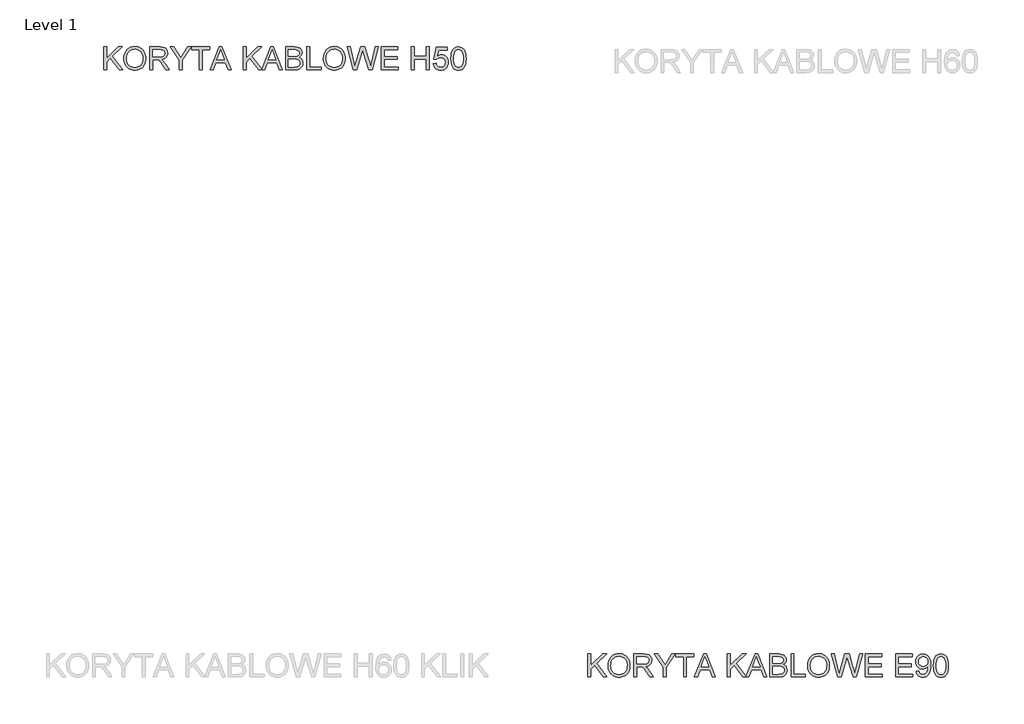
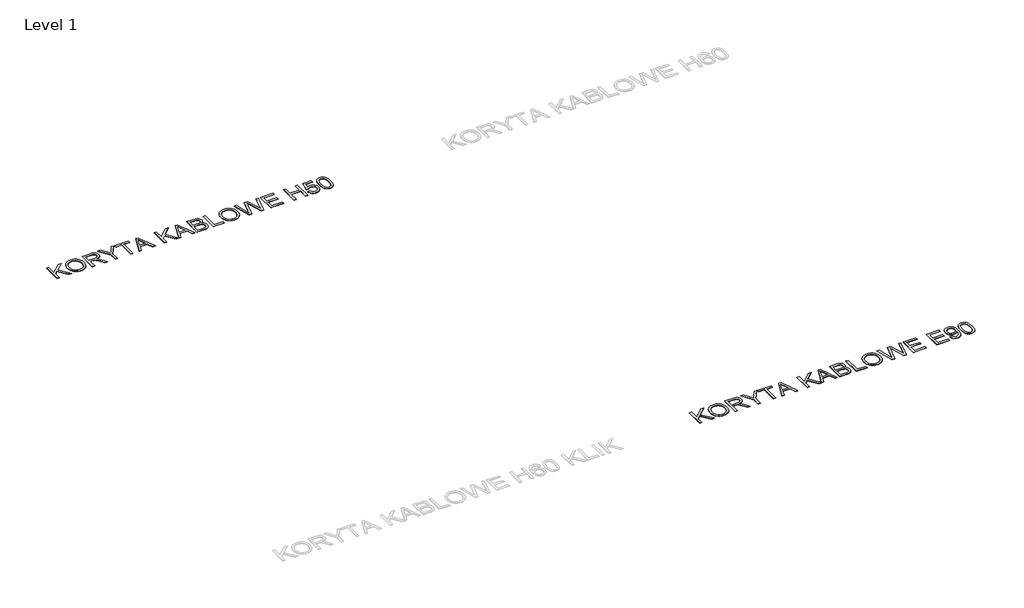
# One storey, part 7 of 9: 2 proxies.
"""IFC4 building model written with IfcOpenShell, lengths in millimetres."""

from ifc_helpers import new_model, si_unit, origin, origin_with_axes, place, context, project, spatial, polyline, outline, extrude, element, save

model = new_model("IFC4")

# Units and contexts
model_context = context("Model", 3, world=origin())
ifc_project = project(units=[si_unit("LENGTHUNIT", "METRE", prefix="MILLI")], contexts=[model_context])

# Site, building, storey
site = spatial("IfcSite", under=ifc_project)
building = spatial("IfcBuilding", under=site)
storey = spatial("IfcBuildingStorey", under=building, Name="Level 1", Elevation=0.0)

# Proxies
placement = place(None, origin())
element("IfcBuildingElementProxy", 1, Name="600mm Arial", ObjectType="600mm Arial", at=placement, inside=storey, context=model_context, shape_type="SweptSolid", body=[
    extrude(outline(polyline([(-22482.0898646, 21830.419586), (-22482.0898646, 22421.1888168), (-22408.2437108, 22421.1888168), (-22408.2437108, 22132.0061244), (-22105.3590954, 22421.1888168), (-22002.0898646, 22421.1888168), (-22256.3687108, 22178.3042014), (-21992.8590954, 21830.419586), (-22083.1475569, 21830.419586), (-22308.72448, 22128.4003552), (-22408.2437108, 22033.4965091), (-22408.2437108, 21830.419586), (-22482.0898646, 21830.419586)])), origin_with_axes(), (0.0, 0.0, 1.0), 10.0),
    extrude(outline(polyline([(-21965.1667877, 22118.0157398), (-21960.2449127, 22187.30961), (-21945.4792877, 22248.6527591), (-21920.8699127, 22302.0451869), (-21886.4167877, 22347.4868937), (-21844.1842156, 22383.7699466), (-21796.2364993, 22409.6864129), (-21742.5736387, 22425.2362927), (-21683.1956339, 22430.419586), (-21643.4510425, 22427.9856918), (-21605.7076531, 22420.6840091), (-21569.9654656, 22408.5145379), (-21536.22448, 22391.4772783), (-21505.4312108, 22370.0860523), (-21478.5321723, 22344.8546821), (-21455.5273646, 22315.7831677), (-21436.4167877, 22282.8715091), (-21421.3987589, 22246.8679033), (-21410.6715954, 22208.5205475), (-21404.2352973, 22167.8294418), (-21402.0898646, 22124.794586), (-21404.3479776, 22081.1918216), (-21411.1223166, 22039.950836), (-21422.4128815, 22001.0716293), (-21438.2196723, 21964.5542014), (-21458.1685906, 21931.3630956), (-21481.8855377, 21902.4628552), (-21509.3705137, 21877.8534802), (-21540.6235185, 21857.5349706), (-21574.4140834, 21841.6335283), (-21609.5117396, 21830.2753552), (-21645.9164872, 21823.4604514), (-21683.6283262, 21821.1888168), (-21724.0670281, 21823.6993336), (-21762.3062108, 21831.2308841), (-21798.3458743, 21843.7834682), (-21832.1860185, 21861.357086), (-21862.94323, 21883.2711485), (-21889.7340954, 21908.8450668), (-21912.5586146, 21938.0788408), (-21931.4167877, 21970.9724706), (-21946.1824127, 22006.2053432), (-21956.7292877, 22042.4568456), (-21963.0574127, 22079.7269778), (-21965.1667877, 22118.0157398)]), holes=[polyline([(-21891.3206339, 22117.294586), (-21887.6292276, 22068.3372543), (-21876.5550089, 22024.8787206), (-21858.0979776, 21986.918985), (-21832.2581339, 21954.4580475), (-21800.8473767, 21928.4604514), (-21765.677605, 21909.8907398), (-21726.748819, 21898.7489129), (-21684.0610185, 21895.0349706), (-21640.6430497, 21898.7849706), (-21601.2545281, 21910.0349706), (-21565.8954536, 21928.7849706), (-21534.5658262, 21955.0349706), (-21508.9152853, 21988.1810043), (-21490.5934704, 22027.6191052), (-21479.6003815, 22073.3492735), (-21475.9360185, 22125.3715091), (-21477.5045281, 22159.1665812), (-21482.2100569, 22190.7441052), (-21490.052605, 22220.1040812), (-21501.0321723, 22247.2465091), (-21515.0270642, 22271.8153192), (-21531.9155858, 22293.4544418), (-21551.6977372, 22312.1638769), (-21574.3735185, 22327.9436244), (-21599.2398045, 22340.4691653), (-21625.5934704, 22349.4159802), (-21653.4345161, 22354.7840692), (-21682.7629416, 22356.5734321), (-21723.9678694, 22353.1254153), (-21762.1980377, 22342.7813648), (-21797.4534464, 22325.5412807), (-21829.7340954, 22301.4051629), (-21856.678206, 22269.2101509), (-21875.9239993, 22227.7933841), (-21887.4714752, 22177.1548624), (-21891.3206339, 22117.294586)])]), origin_with_axes(), (0.0, 0.0, 1.0), 10.0),
    extrude(outline(polyline([(-21300.5514031, 21830.419586), (-21300.5514031, 22421.1888168), (-21045.9840954, 22421.1888168), (-20977.5646243, 22417.2044418), (-20927.78698, 22405.2513168), (-20908.5772444, 22395.7501148), (-20891.4047685, 22383.1840091), (-20876.2695521, 22367.5529994), (-20863.1715954, 22348.857086), (-20852.6021843, 22328.1013769), (-20845.052605, 22306.2909802), (-20839.0129416, 22259.5061244), (-20841.514444, 22229.1635764), (-20849.0189512, 22201.3090091), (-20861.5264632, 22175.9424225), (-20879.03698, 22153.0638168), (-20901.7758622, 22133.40336), (-20929.9684704, 22117.6912206), (-20963.6148045, 22105.9273985), (-21002.7148646, 22098.1118937), (-20978.3759223, 22082.2104514), (-20960.7437108, 22066.5253552), (-20900.8879416, 21990.5157398), (-20802.3783262, 21830.419586), (-20888.1956339, 21830.419586), (-20965.0706339, 21952.8715091), (-21020.59948, 22033.9292014), (-21041.2425089, 22057.5650187), (-21059.6139031, 22072.2224706), (-21094.7340954, 22086.2849706), (-21137.5706339, 22088.8811244), (-21226.7052493, 22088.8811244), (-21226.7052493, 21830.419586), (-21300.5514031, 21830.419586)]), holes=[polyline([(-21226.7052493, 22162.7272783), (-21061.4167877, 22162.7272783), (-21013.9468358, 22165.341461), (-20977.1139031, 22173.1840091), (-20949.3855377, 22186.7777591), (-20929.2292877, 22206.6455475), (-20916.9516435, 22230.6779994), (-20912.8590954, 22256.7657398), (-20914.810718, 22275.6509562), (-20920.6655858, 22292.7873744), (-20930.4236988, 22308.1749946), (-20944.0850569, 22321.8138168), (-20961.9651651, 22332.9826869), (-20984.3795281, 22340.9604514), (-21011.3281459, 22345.74711), (-21042.8110185, 22347.3426629), (-21226.7052493, 22347.3426629), (-21226.7052493, 22162.7272783)])]), origin_with_axes(), (0.0, 0.0, 1.0), 10.0),
    extrude(outline(polyline([(-20543.6283262, 21830.419586), (-20543.6283262, 22080.6599706), (-20774.3975569, 22421.1888168), (-20687.2821723, 22421.1888168), (-20564.1090954, 22239.3138168), (-20501.0802493, 22146.5734321), (-20437.9071723, 22245.9484321), (-20326.1283262, 22421.1888168), (-20239.0129416, 22421.1888168), (-20469.7821723, 22080.6599706), (-20469.7821723, 21830.419586), (-20543.6283262, 21830.419586)])), origin_with_axes(), (0.0, 0.0, 1.0), 10.0),
    extrude(outline(polyline([(-20026.7052493, 21830.419586), (-20026.7052493, 22347.3426629), (-20220.5514031, 22347.3426629), (-20220.5514031, 22421.1888168), (-19759.0129416, 22421.1888168), (-19759.0129416, 22347.3426629), (-19952.8590954, 22347.3426629), (-19952.8590954, 21830.419586), (-20026.7052493, 21830.419586)])), origin_with_axes(), (0.0, 0.0, 1.0), 10.0),
    extrude(outline(polyline([(-19744.7340954, 21830.419586), (-19508.9167877, 22421.1888168), (-19446.0321723, 22421.1888168), (-19210.2148646, 21830.419586), (-19288.2437108, 21830.419586), (-19355.8879416, 22015.0349706), (-19599.2052493, 22015.0349706), (-19666.7052493, 21830.419586), (-19744.7340954, 21830.419586)]), holes=[polyline([(-19572.0898646, 22088.8811244), (-19382.8590954, 22088.8811244), (-19436.0802493, 22234.1215091), (-19477.47448, 22347.3426629), (-19514.2533262, 22246.8138168), (-19572.0898646, 22088.8811244)])]), origin_with_axes(), (0.0, 0.0, 1.0), 10.0),
    extrude(outline(polyline([(-18900.5514031, 21830.419586), (-18900.5514031, 22421.1888168), (-18826.7052493, 22421.1888168), (-18826.7052493, 22132.0061244), (-18523.8206339, 22421.1888168), (-18420.5514031, 22421.1888168), (-18674.8302493, 22178.3042014), (-18411.3206339, 21830.419586), (-18501.6090954, 21830.419586), (-18727.1860185, 22128.4003552), (-18826.7052493, 22033.4965091), (-18826.7052493, 21830.419586), (-18900.5514031, 21830.419586)])), origin_with_axes(), (0.0, 0.0, 1.0), 10.0),
    extrude(outline(polyline([(-18424.7340954, 21830.419586), (-18188.9167877, 22421.1888168), (-18126.0321723, 22421.1888168), (-17890.2148646, 21830.419586), (-17968.2437108, 21830.419586), (-18035.8879416, 22015.0349706), (-18279.2052493, 22015.0349706), (-18346.7052493, 21830.419586), (-18424.7340954, 21830.419586)]), holes=[polyline([(-18252.0898646, 22088.8811244), (-18062.8590954, 22088.8811244), (-18116.0802493, 22234.1215091), (-18157.47448, 22347.3426629), (-18194.2533262, 22246.8138168), (-18252.0898646, 22088.8811244)])]), origin_with_axes(), (0.0, 0.0, 1.0), 10.0),
    extrude(outline(polyline([(-17811.3206339, 21830.419586), (-17811.3206339, 22421.1888168), (-17585.8879416, 22421.1888168), (-17523.8867396, 22416.8438648), (-17475.4792877, 22403.8090091), (-17438.3759223, 22381.7597302), (-17423.2046483, 22367.2329874), (-17410.28698, 22350.3715091), (-17392.6006819, 22313.4484321), (-17386.7052493, 22274.794586), (-17391.6631819, 22239.2236725), (-17406.53698, 22205.7801629), (-17431.4348166, 22176.5193456), (-17466.4648646, 22153.4965091), (-17444.1767036, 22143.9953071), (-17424.6199127, 22131.6455475), (-17407.794492, 22116.4472302), (-17393.7004416, 22098.4003552), (-17382.5631218, 22078.0548023), (-17374.6078935, 22055.9604514), (-17369.8347565, 22032.1173023), (-17368.2437108, 22006.5253552), (-17372.5886627, 21965.3294418), (-17385.6235185, 21927.1263168), (-17405.0766435, 21894.638336), (-17428.6764031, 21870.5878552), (-17457.5766435, 21853.1719898), (-17492.9312108, 21840.5878552), (-17535.8939512, 21832.9616533), (-17587.6187108, 21830.419586), (-17811.3206339, 21830.419586)]), holes=[polyline([(-17737.47448, 22181.1888168), (-17602.6187108, 22181.1888168), (-17555.4552493, 22182.7753552), (-17523.8687108, 22187.5349706), (-17496.302605, 22198.4784802), (-17476.4889031, 22214.8667014), (-17464.5357781, 22236.4472302), (-17460.5514031, 22262.9676629), (-17464.2653454, 22288.7128552), (-17475.4071723, 22311.1407398), (-17493.4720762, 22328.6467494), (-17517.9552493, 22339.6263168), (-17555.5273646, 22345.4135764), (-17612.8590954, 22347.3426629), (-17737.47448, 22347.3426629), (-17737.47448, 22181.1888168)]), polyline([(-17737.47448, 21904.2657398), (-17586.0321723, 21904.2657398), (-17531.22448, 21907.1503552), (-17505.7857781, 21913.5505956), (-17484.8542877, 21923.232086), (-17467.8350569, 21937.0962687), (-17454.1331339, 21956.044586), (-17445.1006819, 21979.2296821), (-17442.0898646, 22005.8042014), (-17445.6235185, 22036.669586), (-17456.22448, 22063.2080475), (-17474.740105, 22083.9592494), (-17502.0177493, 22097.4628552), (-17540.6535666, 22104.872711), (-17593.2437108, 22107.3426629), (-17737.47448, 22107.3426629), (-17737.47448, 21904.2657398)])]), origin_with_axes(), (0.0, 0.0, 1.0), 10.0),
    extrude(outline(polyline([(-17266.7052493, 21830.419586), (-17266.7052493, 22421.1888168), (-17192.8590954, 22421.1888168), (-17192.8590954, 21904.2657398), (-16897.47448, 21904.2657398), (-16897.47448, 21830.419586), (-17266.7052493, 21830.419586)])), origin_with_axes(), (0.0, 0.0, 1.0), 10.0),
    extrude(outline(polyline([(-16842.0898646, 22118.0157398), (-16837.1679896, 22187.30961), (-16822.4023646, 22248.6527591), (-16797.7929896, 22302.0451869), (-16763.3398646, 22347.4868937), (-16721.1072925, 22383.7699466), (-16673.1595762, 22409.6864129), (-16619.4967156, 22425.2362927), (-16560.1187108, 22430.419586), (-16520.3741194, 22427.9856918), (-16482.63073, 22420.6840091), (-16446.8885425, 22408.5145379), (-16413.1475569, 22391.4772783), (-16382.3542877, 22370.0860523), (-16355.4552493, 22344.8546821), (-16332.4504416, 22315.7831677), (-16313.3398646, 22282.8715091), (-16298.3218358, 22246.8679033), (-16287.5946723, 22208.5205475), (-16281.1583743, 22167.8294418), (-16279.0129416, 22124.794586), (-16281.2710545, 22081.1918216), (-16288.0453935, 22039.950836), (-16299.3359584, 22001.0716293), (-16315.1427493, 21964.5542014), (-16335.0916675, 21931.3630956), (-16358.8086146, 21902.4628552), (-16386.2935906, 21877.8534802), (-16417.5465954, 21857.5349706), (-16451.3371603, 21841.6335283), (-16486.4348166, 21830.2753552), (-16522.8395642, 21823.4604514), (-16560.5514031, 21821.1888168), (-16600.990105, 21823.6993336), (-16639.2292877, 21831.2308841), (-16675.2689512, 21843.7834682), (-16709.1090954, 21861.357086), (-16739.8663069, 21883.2711485), (-16766.6571723, 21908.8450668), (-16789.4816916, 21938.0788408), (-16808.3398646, 21970.9724706), (-16823.1054896, 22006.2053432), (-16833.6523646, 22042.4568456), (-16839.9804896, 22079.7269778), (-16842.0898646, 22118.0157398)]), holes=[polyline([(-16768.2437108, 22117.294586), (-16764.5523045, 22068.3372543), (-16753.4780858, 22024.8787206), (-16735.0210545, 21986.918985), (-16709.1812108, 21954.4580475), (-16677.7704536, 21928.4604514), (-16642.6006819, 21909.8907398), (-16603.6718959, 21898.7489129), (-16560.9840954, 21895.0349706), (-16517.5661267, 21898.7849706), (-16478.177605, 21910.0349706), (-16442.8185305, 21928.7849706), (-16411.4889031, 21955.0349706), (-16385.8383622, 21988.1810043), (-16367.5165473, 22027.6191052), (-16356.5234584, 22073.3492735), (-16352.8590954, 22125.3715091), (-16354.427605, 22159.1665812), (-16359.1331339, 22190.7441052), (-16366.9756819, 22220.1040812), (-16377.9552493, 22247.2465091), (-16391.9501411, 22271.8153192), (-16408.8386627, 22293.4544418), (-16428.6208142, 22312.1638769), (-16451.2965954, 22327.9436244), (-16476.1628815, 22340.4691653), (-16502.5165473, 22349.4159802), (-16530.357593, 22354.7840692), (-16559.6860185, 22356.5734321), (-16600.8909464, 22353.1254153), (-16639.1211146, 22342.7813648), (-16674.3765233, 22325.5412807), (-16706.6571723, 22301.4051629), (-16733.6012829, 22269.2101509), (-16752.8470762, 22227.7933841), (-16764.3945521, 22177.1548624), (-16768.2437108, 22117.294586)])]), origin_with_axes(), (0.0, 0.0, 1.0), 10.0),
    extrude(outline(polyline([(-16071.7533262, 21830.419586), (-16232.8590954, 22421.1888168), (-16156.7052493, 22421.1888168), (-16063.2437108, 22032.919586), (-16034.3975569, 21913.0638168), (-16003.5321723, 22019.0734321), (-15886.4167877, 22421.1888168), (-15776.6571723, 22421.1888168), (-15691.5610185, 22129.6984321), (-15655.1066916, 22021.5253552), (-15628.2437108, 21913.0638168), (-15600.2629416, 22029.4580475), (-15505.9360185, 22421.1888168), (-15429.7821723, 22421.1888168), (-15591.0321723, 21830.419586), (-15669.9264031, 21830.419586), (-15811.5610185, 22286.1888168), (-15831.3206339, 22349.794586), (-15853.5321723, 22273.2080475), (-15982.6187108, 21830.419586), (-16071.7533262, 21830.419586)])), origin_with_axes(), (0.0, 0.0, 1.0), 10.0),
    extrude(outline(polyline([(-15355.9360185, 21830.419586), (-15355.9360185, 22421.1888168), (-14931.3206339, 22421.1888168), (-14931.3206339, 22347.3426629), (-15282.0898646, 22347.3426629), (-15282.0898646, 22171.9580475), (-14949.7821723, 22171.9580475), (-14949.7821723, 22098.1118937), (-15282.0898646, 22098.1118937), (-15282.0898646, 21904.2657398), (-14922.0898646, 21904.2657398), (-14922.0898646, 21830.419586), (-15355.9360185, 21830.419586)])), origin_with_axes(), (0.0, 0.0, 1.0), 10.0),
    extrude(outline(polyline([(-14580.5514031, 21830.419586), (-14580.5514031, 22421.1888168), (-14506.7052493, 22421.1888168), (-14506.7052493, 22181.1888168), (-14192.8590954, 22181.1888168), (-14192.8590954, 22421.1888168), (-14119.0129416, 22421.1888168), (-14119.0129416, 21830.419586), (-14192.8590954, 21830.419586), (-14192.8590954, 22107.3426629), (-14506.7052493, 22107.3426629), (-14506.7052493, 21830.419586), (-14580.5514031, 21830.419586)])), origin_with_axes(), (0.0, 0.0, 1.0), 10.0),
    extrude(outline(polyline([(-14017.47448, 21987.3426629), (-13943.6283262, 21996.5734321), (-13938.1114993, 21972.833949), (-13930.0706339, 21952.2404994), (-13919.50573, 21934.7930836), (-13906.4167877, 21920.4917014), (-13890.8308502, 21909.3543817), (-13872.7749608, 21901.3991533), (-13852.2491194, 21896.6260163), (-13829.2533262, 21895.0349706), (-13801.1283262, 21897.2480115), (-13776.3206339, 21903.8871341), (-13754.8302493, 21914.9523384), (-13736.6571723, 21930.4436244), (-13722.2070521, 21949.5947663), (-13711.8855377, 21971.6395379), (-13705.6926291, 21996.5779394), (-13703.6283262, 22024.4099706), (-13705.5619199, 22050.7140571), (-13711.3627012, 22074.0974706), (-13721.0306699, 22094.560211), (-13734.5658262, 22112.1022783), (-13752.013242, 22126.1737927), (-13773.4179896, 22136.2248744), (-13798.780069, 22142.2555235), (-13828.09948, 22144.2657398), (-13863.9227973, 22141.0566052), (-13892.9312108, 22131.4292014), (-13916.0982781, 22116.6816052), (-13934.3975569, 22098.1118937), (-14008.2437108, 22107.3426629), (-13943.6283262, 22411.9580475), (-13657.47448, 22411.9580475), (-13657.47448, 22338.1118937), (-13883.9167877, 22338.1118937), (-13915.5033262, 22175.419586), (-13889.4426291, 22194.0974706), (-13862.7509223, 22207.4388168), (-13835.428206, 22215.4436244), (-13807.47448, 22218.1118937), (-13771.5114392, 22214.8036004), (-13738.4780858, 22204.8787206), (-13708.3744199, 22188.3372543), (-13681.2004416, 22165.1792014), (-13658.7049488, 22136.8198264), (-13642.6367396, 22104.6743937), (-13632.9958142, 22068.7429033), (-13629.7821723, 22029.0253552), (-13632.6758021, 21990.7681437), (-13641.3566916, 21955.1792014), (-13655.8248406, 21922.2585283), (-13676.0802493, 21892.0061244), (-13706.7653454, 21861.0235523), (-13742.5706339, 21838.8931437), (-13783.4961146, 21825.6148985), (-13829.5417877, 21821.1888168), (-13867.6502613, 21824.0328672), (-13902.0718358, 21832.5650187), (-13932.8065113, 21846.7852711), (-13959.8542877, 21866.6936244), (-13982.3587949, 21891.2984922), (-13999.4636627, 21919.6082879), (-14011.1688911, 21951.6230115), (-14017.47448, 21987.3426629)])), origin_with_axes(), (0.0, 0.0, 1.0), 10.0),
    extrude(outline(polyline([(-13565.1667877, 22121.044586), (-13559.740105, 22215.6058841), (-13552.9567517, 22255.7065451), (-13543.4600569, 22291.0205475), (-13531.2905858, 22321.8363528), (-13516.4889031, 22348.4424225), (-13499.0550089, 22370.8387567), (-13478.9889031, 22389.0253552), (-13456.2229776, 22403.0968696), (-13430.6896243, 22413.1479514), (-13402.388843, 22419.1786004), (-13371.3206339, 22421.1888168), (-13325.8158262, 22416.4292014), (-13285.0706339, 22402.1503552), (-13250.9961146, 22378.9111725), (-13225.5033262, 22347.2705475), (-13206.2485185, 22307.4989129), (-13190.8879416, 22259.8667014), (-13180.8278454, 22199.3799225), (-13177.47448, 22121.044586), (-13182.8470762, 22027.0241533), (-13189.5628214, 21987.0587086), (-13198.9648646, 21951.7897783), (-13211.0396843, 21920.9604514), (-13225.7737589, 21894.3138168), (-13243.1670882, 21871.8498744), (-13263.2196723, 21853.5686244), (-13286.0126411, 21839.4024586), (-13311.6271243, 21829.2837687), (-13340.0631218, 21823.2125547), (-13371.3206339, 21821.1888168), (-13411.9937108, 21824.7044418), (-13448.0514031, 21835.2513168), (-13479.4937108, 21852.8294418), (-13506.3206339, 21877.4388168), (-13532.0658262, 21921.9249946), (-13550.4552493, 21977.3546821), (-13561.4889031, 22043.7278793), (-13565.1667877, 22121.044586)]), holes=[polyline([(-13491.3206339, 22121.1888168), (-13489.1571723, 22056.9926028), (-13482.6667877, 22005.028961), (-13471.84948, 21965.2978913), (-13456.7052493, 21937.7993937), (-13438.3879416, 21919.0899586), (-13418.0514031, 21905.7260764), (-13395.6956339, 21897.707747), (-13371.3206339, 21895.0349706), (-13346.9456339, 21897.7167615), (-13324.5898646, 21905.7621341), (-13304.2533262, 21919.1710884), (-13285.9360185, 21937.9436244), (-13270.7917877, 21965.4871942), (-13259.97448, 22005.2092494), (-13253.4840954, 22057.1097903), (-13251.3206339, 22121.1888168), (-13253.41198, 22183.6858119), (-13259.6860185, 22234.7344898), (-13270.1427493, 22274.3348504), (-13284.7821723, 22302.4868937), (-13302.7929896, 22322.1112927), (-13323.3639031, 22336.1287206), (-13346.4949127, 22344.5391773), (-13372.1860185, 22347.3426629), (-13396.4348166, 22344.872711), (-13418.41198, 22337.4628552), (-13438.1175089, 22325.1130956), (-13455.5514031, 22307.8234321), (-13471.2004416, 22277.1743937), (-13482.3783262, 22235.8522783), (-13489.0850569, 22183.857086), (-13491.3206339, 22121.1888168)])]), origin_with_axes(), (0.0, 0.0, 1.0), 10.0),
])
element("IfcBuildingElementProxy", 2, Name="600mm Arial", ObjectType="600mm Arial", at=placement, inside=storey, context=model_context, shape_type="SweptSolid", body=[
    extrude(outline(polyline([(-10048.6894302, 6231.1737435), (-10048.6894302, 6821.9429743), (-9974.8432764, 6821.9429743), (-9974.8432764, 6532.760282), (-9671.958661, 6821.9429743), (-9568.6894302, 6821.9429743), (-9822.9682764, 6579.0583589), (-9559.458661, 6231.1737435), (-9649.7471226, 6231.1737435), (-9875.3240456, 6529.1545127), (-9974.8432764, 6434.2506666), (-9974.8432764, 6231.1737435), (-10048.6894302, 6231.1737435)])), origin_with_axes(), (0.0, 0.0, 1.0), 10.0),
    extrude(outline(polyline([(-9531.7663533, 6518.7698974), (-9526.8444783, 6588.0637675), (-9512.0788533, 6649.4069166), (-9487.4694783, 6702.7993445), (-9453.0163533, 6748.2410512), (-9410.7837812, 6784.5241041), (-9362.8360649, 6810.4405704), (-9309.1732043, 6825.9904502), (-9249.7951995, 6831.1737435), (-9210.0506081, 6828.7398493), (-9172.3072187, 6821.4381666), (-9136.5650312, 6809.2686954), (-9102.8240456, 6792.2314358), (-9072.0307764, 6770.8402099), (-9045.1317379, 6745.6088397), (-9022.1269302, 6716.5373252), (-9003.0163533, 6683.6256666), (-8987.9983245, 6647.6220608), (-8977.271161, 6609.274705), (-8970.8348629, 6568.5835993), (-8968.6894302, 6525.5487435), (-8970.9475432, 6481.9459791), (-8977.7218822, 6440.7049935), (-8989.0124471, 6401.8257868), (-9004.8192379, 6365.3083589), (-9024.7681562, 6332.1172531), (-9048.4851033, 6303.2170127), (-9075.9700793, 6278.6076377), (-9107.2230841, 6258.2891281), (-9141.013649, 6242.3876858), (-9176.1113052, 6231.0295127), (-9212.5160528, 6224.2146089), (-9250.2278918, 6221.9429743), (-9290.6665937, 6224.4534911), (-9328.9057764, 6231.9850416), (-9364.9454399, 6244.5376257), (-9398.7855841, 6262.1112435), (-9429.5427956, 6284.025306), (-9456.333661, 6309.5992243), (-9479.1581802, 6338.8329983), (-9498.0163533, 6371.7266281), (-9512.7819783, 6406.9595007), (-9523.3288533, 6443.2110031), (-9529.6569783, 6480.4811353), (-9531.7663533, 6518.7698974)]), holes=[polyline([(-9457.9201995, 6518.0487435), (-9454.2287932, 6469.0914118), (-9443.1545745, 6425.6328781), (-9424.6975432, 6387.6731425), (-9398.8576995, 6355.212205), (-9367.4469423, 6329.2146089), (-9332.2771706, 6310.6448974), (-9293.3483846, 6299.5030704), (-9250.6605841, 6295.7891281), (-9207.2426153, 6299.5391281), (-9167.8540937, 6310.7891281), (-9132.4950192, 6329.5391281), (-9101.1653918, 6355.7891281), (-9075.5148509, 6388.9351618), (-9057.193036, 6428.3732627), (-9046.1999471, 6474.103431), (-9042.5355841, 6526.1256666), (-9044.1040937, 6559.9207387), (-9048.8096226, 6591.4982627), (-9056.6521706, 6620.8582387), (-9067.6317379, 6648.0006666), (-9081.6266298, 6672.5694767), (-9098.5151514, 6694.2085993), (-9118.2973028, 6712.9180344), (-9140.9730841, 6728.697782), (-9165.8393701, 6741.2233228), (-9192.193036, 6750.1701377), (-9220.0340817, 6755.5382267), (-9249.3625072, 6757.3275897), (-9290.5674351, 6753.8795728), (-9328.7976033, 6743.5355224), (-9364.053012, 6726.2954382), (-9396.333661, 6702.1593204), (-9423.2777716, 6669.9643084), (-9442.5235649, 6628.5475416), (-9454.0710408, 6577.9090199), (-9457.9201995, 6518.0487435)])]), origin_with_axes(), (0.0, 0.0, 1.0), 10.0),
    extrude(outline(polyline([(-8867.1509687, 6231.1737435), (-8867.1509687, 6821.9429743), (-8612.583661, 6821.9429743), (-8544.1641899, 6817.9585993), (-8494.3865456, 6806.0054743), (-8475.1768101, 6796.5042724), (-8458.0043341, 6783.9381666), (-8442.8691177, 6768.307157), (-8429.771161, 6749.6112435), (-8419.20175, 6728.8555344), (-8411.6521706, 6707.0451377), (-8405.6125072, 6660.260282), (-8408.1140096, 6629.9177339), (-8415.6185168, 6602.0631666), (-8428.1260288, 6576.69658), (-8445.6365456, 6553.8179743), (-8468.3754278, 6534.1575175), (-8496.568036, 6518.4453781), (-8530.2143701, 6506.681556), (-8569.3144302, 6498.8660512), (-8544.9754879, 6482.9646089), (-8527.3432764, 6467.2795127), (-8467.4875072, 6391.2698974), (-8368.9778918, 6231.1737435), (-8454.7951995, 6231.1737435), (-8531.6701995, 6353.6256666), (-8587.1990456, 6434.6833589), (-8607.8420745, 6458.3191762), (-8626.2134687, 6472.9766281), (-8661.333661, 6487.0391281), (-8704.1701995, 6489.635282), (-8793.3048149, 6489.635282), (-8793.3048149, 6231.1737435), (-8867.1509687, 6231.1737435)]), holes=[polyline([(-8793.3048149, 6563.4814358), (-8628.0163533, 6563.4814358), (-8580.5464014, 6566.0956185), (-8543.7134687, 6573.9381666), (-8515.9851033, 6587.5319166), (-8495.8288533, 6607.399705), (-8483.5512091, 6631.432157), (-8479.458661, 6657.5198974), (-8481.4102836, 6676.4051137), (-8487.2651514, 6693.541532), (-8497.0232644, 6708.9291522), (-8510.6846226, 6722.5679743), (-8528.5647307, 6733.7368445), (-8550.9790937, 6741.7146089), (-8577.9277115, 6746.5012675), (-8609.4105841, 6748.0968204), (-8793.3048149, 6748.0968204), (-8793.3048149, 6563.4814358)])]), origin_with_axes(), (0.0, 0.0, 1.0), 10.0),
    extrude(outline(polyline([(-8110.2278918, 6231.1737435), (-8110.2278918, 6481.4141281), (-8340.9971226, 6821.9429743), (-8253.8817379, 6821.9429743), (-8130.708661, 6640.0679743), (-8067.6798149, 6547.3275897), (-8004.5067379, 6646.7025897), (-7892.7278918, 6821.9429743), (-7805.6125072, 6821.9429743), (-8036.3817379, 6481.4141281), (-8036.3817379, 6231.1737435), (-8110.2278918, 6231.1737435)])), origin_with_axes(), (0.0, 0.0, 1.0), 10.0),
    extrude(outline(polyline([(-7593.3048149, 6231.1737435), (-7593.3048149, 6748.0968204), (-7787.1509687, 6748.0968204), (-7787.1509687, 6821.9429743), (-7325.6125072, 6821.9429743), (-7325.6125072, 6748.0968204), (-7519.458661, 6748.0968204), (-7519.458661, 6231.1737435), (-7593.3048149, 6231.1737435)])), origin_with_axes(), (0.0, 0.0, 1.0), 10.0),
    extrude(outline(polyline([(-7311.333661, 6231.1737435), (-7075.5163533, 6821.9429743), (-7012.6317379, 6821.9429743), (-6776.8144302, 6231.1737435), (-6854.8432764, 6231.1737435), (-6922.4875072, 6415.7891281), (-7165.8048149, 6415.7891281), (-7233.3048149, 6231.1737435), (-7311.333661, 6231.1737435)]), holes=[polyline([(-7138.6894302, 6489.635282), (-6949.458661, 6489.635282), (-7002.6798149, 6634.8756666), (-7044.0740456, 6748.0968204), (-7080.8528918, 6647.5679743), (-7138.6894302, 6489.635282)])]), origin_with_axes(), (0.0, 0.0, 1.0), 10.0),
    extrude(outline(polyline([(-6467.1509687, 6231.1737435), (-6467.1509687, 6821.9429743), (-6393.3048149, 6821.9429743), (-6393.3048149, 6532.760282), (-6090.4201995, 6821.9429743), (-5987.1509687, 6821.9429743), (-6241.4298149, 6579.0583589), (-5977.9201995, 6231.1737435), (-6068.208661, 6231.1737435), (-6293.7855841, 6529.1545127), (-6393.3048149, 6434.2506666), (-6393.3048149, 6231.1737435), (-6467.1509687, 6231.1737435)])), origin_with_axes(), (0.0, 0.0, 1.0), 10.0),
    extrude(outline(polyline([(-5991.333661, 6231.1737435), (-5755.5163533, 6821.9429743), (-5692.6317379, 6821.9429743), (-5456.8144302, 6231.1737435), (-5534.8432764, 6231.1737435), (-5602.4875072, 6415.7891281), (-5845.8048149, 6415.7891281), (-5913.3048149, 6231.1737435), (-5991.333661, 6231.1737435)]), holes=[polyline([(-5818.6894302, 6489.635282), (-5629.458661, 6489.635282), (-5682.6798149, 6634.8756666), (-5724.0740456, 6748.0968204), (-5760.8528918, 6647.5679743), (-5818.6894302, 6489.635282)])]), origin_with_axes(), (0.0, 0.0, 1.0), 10.0),
    extrude(outline(polyline([(-5377.9201995, 6231.1737435), (-5377.9201995, 6821.9429743), (-5152.4875072, 6821.9429743), (-5090.4863052, 6817.5980224), (-5042.0788533, 6804.5631666), (-5004.9754879, 6782.5138877), (-4989.8042139, 6767.9871449), (-4976.8865456, 6751.1256666), (-4959.2002476, 6714.2025897), (-4953.3048149, 6675.5487435), (-4958.2627476, 6639.97783), (-4973.1365456, 6606.5343204), (-4998.0343822, 6577.2735031), (-5033.0644302, 6554.2506666), (-5010.7762692, 6544.7494647), (-4991.2194783, 6532.399705), (-4974.3940576, 6517.2013877), (-4960.3000072, 6499.1545127), (-4949.1626875, 6478.8089599), (-4941.2074591, 6456.7146089), (-4936.4343221, 6432.8714599), (-4934.8432764, 6407.2795127), (-4939.1882283, 6366.0835993), (-4952.2230841, 6327.8804743), (-4971.6762091, 6295.3924935), (-4995.2759687, 6271.3420127), (-5024.1762091, 6253.9261474), (-5059.5307764, 6241.3420127), (-5102.4935168, 6233.7158108), (-5154.2182764, 6231.1737435), (-5377.9201995, 6231.1737435)]), holes=[polyline([(-5304.0740456, 6581.9429743), (-5169.2182764, 6581.9429743), (-5122.0548149, 6583.5295127), (-5090.4682764, 6588.2891281), (-5062.9021706, 6599.2326377), (-5043.0884687, 6615.6208589), (-5031.1353437, 6637.2013877), (-5027.1509687, 6663.7218204), (-5030.864911, 6689.4670127), (-5042.0067379, 6711.8948974), (-5060.0716418, 6729.400907), (-5084.5548149, 6740.3804743), (-5122.1269302, 6746.1677339), (-5179.458661, 6748.0968204), (-5304.0740456, 6748.0968204), (-5304.0740456, 6581.9429743)]), polyline([(-5304.0740456, 6305.0198974), (-5152.6317379, 6305.0198974), (-5097.8240456, 6307.9045127), (-5072.3853437, 6314.3047531), (-5051.4538533, 6323.9862435), (-5034.4346226, 6337.8504262), (-5020.7326995, 6356.7987435), (-5011.7002476, 6379.9838397), (-5008.6894302, 6406.5583589), (-5012.2230841, 6437.4237435), (-5022.8240456, 6463.962205), (-5041.3396706, 6484.713407), (-5068.6173149, 6498.2170127), (-5107.2531322, 6505.6268685), (-5159.8432764, 6508.0968204), (-5304.0740456, 6508.0968204), (-5304.0740456, 6305.0198974)])]), origin_with_axes(), (0.0, 0.0, 1.0), 10.0),
    extrude(outline(polyline([(-4833.3048149, 6231.1737435), (-4833.3048149, 6821.9429743), (-4759.458661, 6821.9429743), (-4759.458661, 6305.0198974), (-4464.0740456, 6305.0198974), (-4464.0740456, 6231.1737435), (-4833.3048149, 6231.1737435)])), origin_with_axes(), (0.0, 0.0, 1.0), 10.0),
    extrude(outline(polyline([(-4408.6894302, 6518.7698974), (-4403.7675552, 6588.0637675), (-4389.0019302, 6649.4069166), (-4364.3925552, 6702.7993445), (-4329.9394302, 6748.2410512), (-4287.7068581, 6784.5241041), (-4239.7591418, 6810.4405704), (-4186.0962812, 6825.9904502), (-4126.7182764, 6831.1737435), (-4086.9736851, 6828.7398493), (-4049.2302956, 6821.4381666), (-4013.4881081, 6809.2686954), (-3979.7471226, 6792.2314358), (-3948.9538533, 6770.8402099), (-3922.0548149, 6745.6088397), (-3899.0500072, 6716.5373252), (-3879.9394302, 6683.6256666), (-3864.9214014, 6647.6220608), (-3854.1942379, 6609.274705), (-3847.7579399, 6568.5835993), (-3845.6125072, 6525.5487435), (-3847.8706201, 6481.9459791), (-3854.6449591, 6440.7049935), (-3865.935524, 6401.8257868), (-3881.7423149, 6365.3083589), (-3901.6912331, 6332.1172531), (-3925.4081802, 6303.2170127), (-3952.8931562, 6278.6076377), (-3984.146161, 6258.2891281), (-4017.9367259, 6242.3876858), (-4053.0343822, 6231.0295127), (-4089.4391298, 6224.2146089), (-4127.1509687, 6221.9429743), (-4167.5896706, 6224.4534911), (-4205.8288533, 6231.9850416), (-4241.8685168, 6244.5376257), (-4275.708661, 6262.1112435), (-4306.4658726, 6284.025306), (-4333.2567379, 6309.5992243), (-4356.0812572, 6338.8329983), (-4374.9394302, 6371.7266281), (-4389.7050552, 6406.9595007), (-4400.2519302, 6443.2110031), (-4406.5800552, 6480.4811353), (-4408.6894302, 6518.7698974)]), holes=[polyline([(-4334.8432764, 6518.0487435), (-4331.1518701, 6469.0914118), (-4320.0776514, 6425.6328781), (-4301.6206201, 6387.6731425), (-4275.7807764, 6355.212205), (-4244.3700192, 6329.2146089), (-4209.2002476, 6310.6448974), (-4170.2714615, 6299.5030704), (-4127.583661, 6295.7891281), (-4084.1656923, 6299.5391281), (-4044.7771706, 6310.7891281), (-4009.4180961, 6329.5391281), (-3978.0884687, 6355.7891281), (-3952.4379278, 6388.9351618), (-3934.1161129, 6428.3732627), (-3923.123024, 6474.103431), (-3919.458661, 6526.1256666), (-3921.0271706, 6559.9207387), (-3925.7326995, 6591.4982627), (-3933.5752476, 6620.8582387), (-3944.5548149, 6648.0006666), (-3958.5497067, 6672.5694767), (-3975.4382283, 6694.2085993), (-3995.2203798, 6712.9180344), (-4017.896161, 6728.697782), (-4042.7624471, 6741.2233228), (-4069.1161129, 6750.1701377), (-4096.9571586, 6755.5382267), (-4126.2855841, 6757.3275897), (-4167.490512, 6753.8795728), (-4205.7206802, 6743.5355224), (-4240.9760889, 6726.2954382), (-4273.2567379, 6702.1593204), (-4300.2008485, 6669.9643084), (-4319.4466418, 6628.5475416), (-4330.9941177, 6577.9090199), (-4334.8432764, 6518.0487435)])]), origin_with_axes(), (0.0, 0.0, 1.0), 10.0),
    extrude(outline(polyline([(-3638.3528918, 6231.1737435), (-3799.458661, 6821.9429743), (-3723.3048149, 6821.9429743), (-3629.8432764, 6433.6737435), (-3600.9971226, 6313.8179743), (-3570.1317379, 6419.8275897), (-3453.0163533, 6821.9429743), (-3343.2567379, 6821.9429743), (-3258.1605841, 6530.4525897), (-3221.7062572, 6422.2795127), (-3194.8432764, 6313.8179743), (-3166.8625072, 6430.212205), (-3072.5355841, 6821.9429743), (-2996.3817379, 6821.9429743), (-3157.6317379, 6231.1737435), (-3236.5259687, 6231.1737435), (-3378.1605841, 6686.9429743), (-3397.9201995, 6750.5487435), (-3420.1317379, 6673.962205), (-3549.2182764, 6231.1737435), (-3638.3528918, 6231.1737435)])), origin_with_axes(), (0.0, 0.0, 1.0), 10.0),
    extrude(outline(polyline([(-2922.5355841, 6231.1737435), (-2922.5355841, 6821.9429743), (-2497.9201995, 6821.9429743), (-2497.9201995, 6748.0968204), (-2848.6894302, 6748.0968204), (-2848.6894302, 6572.712205), (-2516.3817379, 6572.712205), (-2516.3817379, 6498.8660512), (-2848.6894302, 6498.8660512), (-2848.6894302, 6305.0198974), (-2488.6894302, 6305.0198974), (-2488.6894302, 6231.1737435), (-2922.5355841, 6231.1737435)])), origin_with_axes(), (0.0, 0.0, 1.0), 10.0),
    extrude(outline(polyline([(-2147.1509687, 6231.1737435), (-2147.1509687, 6821.9429743), (-1722.5355841, 6821.9429743), (-1722.5355841, 6748.0968204), (-2073.3048149, 6748.0968204), (-2073.3048149, 6572.712205), (-1740.9971226, 6572.712205), (-1740.9971226, 6498.8660512), (-2073.3048149, 6498.8660512), (-2073.3048149, 6305.0198974), (-1713.3048149, 6305.0198974), (-1713.3048149, 6231.1737435), (-2147.1509687, 6231.1737435)])), origin_with_axes(), (0.0, 0.0, 1.0), 10.0),
    extrude(outline(polyline([(-1620.9971226, 6378.8660512), (-1547.1509687, 6388.0968204), (-1534.5307764, 6346.1797531), (-1525.2459206, 6330.2377459), (-1513.9778918, 6317.6400897), (-1500.8528918, 6308.080294), (-1485.9971226, 6301.2518685), (-1451.0932764, 6295.7891281), (-1419.7771706, 6299.3047531), (-1391.3096226, 6309.8516281), (-1367.6557764, 6326.275907), (-1350.7807764, 6347.4237435), (-1337.9983245, 6375.2242243), (-1326.6221226, 6411.6064358), (-1318.6173149, 6453.3612435), (-1315.9490456, 6497.2795127), (-1316.3817379, 6511.7025897), (-1341.9646706, 6480.4766281), (-1375.4442379, 6455.7410512), (-1414.4045745, 6439.6232627), (-1456.4298149, 6434.2506666), (-1491.5094423, 6437.5319166), (-1523.7675552, 6447.3756666), (-1553.2041538, 6463.7819166), (-1579.8192379, 6486.7506666), (-1601.873024, 6515.0829983), (-1617.6257283, 6547.5799935), (-1627.0773509, 6584.2416522), (-1630.2278918, 6625.0679743), (-1626.9241057, 6667.2554743), (-1617.0127476, 6705.1160512), (-1600.4938173, 6738.649705), (-1577.3673149, 6767.8564358), (-1549.2648509, 6791.5192964), (-1517.818036, 6808.4213397), (-1483.0268701, 6818.5625656), (-1444.8913533, 6821.9429743), (-1416.7348028, 6820.0138877), (-1389.8132283, 6814.2266281), (-1364.1266298, 6804.5811954), (-1339.6750072, 6791.0775897), (-1317.2741658, 6774.0042724), (-1297.739911, 6753.649705), (-1281.0722427, 6730.0138877), (-1267.271161, 6703.0968204), (-1256.4493461, 6671.3480224), (-1248.7194783, 6633.2170127), (-1244.0815576, 6588.7037916), (-1242.5355841, 6537.8083589), (-1244.0770504, 6484.3573373), (-1248.7014495, 6436.6485031), (-1256.4087812, 6394.6818565), (-1267.1990456, 6358.4573974), (-1281.0316778, 6327.0917123), (-1297.8661129, 6299.7013877), (-1317.7023509, 6276.2864238), (-1340.5403918, 6256.8468204), (-1365.9205, 6241.5763877), (-1393.3829399, 6230.6689358), (-1422.9277115, 6224.1244647), (-1454.5548149, 6221.9429743), (-1487.7188774, 6224.5165921), (-1517.6918341, 6232.2374454), (-1544.4736851, 6245.1055344), (-1568.0644302, 6263.1208589), (-1587.8691177, 6285.7966401), (-1603.2927956, 6312.6460993), (-1614.3354639, 6343.6692363), (-1620.9971226, 6378.8660512)]), holes=[polyline([(-1316.3817379, 6626.7987435), (-1318.3739254, 6653.2650897), (-1324.3504879, 6676.8468204), (-1334.3114254, 6697.5439358), (-1348.2567379, 6715.3564358), (-1365.5013293, 6729.6803541), (-1385.3601033, 6739.9117243), (-1407.8330601, 6746.0505464), (-1432.9201995, 6748.0968204), (-1458.8096226, 6745.892794), (-1482.2471226, 6739.2807147), (-1503.2326995, 6728.2605824), (-1521.7663533, 6712.8323974), (-1536.9105841, 6693.8976017), (-1547.7278918, 6672.3576377), (-1554.2182764, 6648.2125055), (-1556.3817379, 6621.462205), (-1554.3354639, 6597.470318), (-1548.1966418, 6575.8311954), (-1537.9652716, 6556.5448373), (-1523.6413533, 6539.6112435), (-1505.8198389, 6525.8236834), (-1485.0956802, 6515.9754262), (-1461.4688774, 6510.0664719), (-1434.9394302, 6508.0968204), (-1410.1993461, 6510.0664719), (-1387.7579399, 6515.9754262), (-1367.6152115, 6525.8236834), (-1349.771161, 6539.6112435), (-1335.1632884, 6556.8783709), (-1324.7290937, 6577.16533), (-1318.4685769, 6600.4721209), (-1316.3817379, 6626.7987435)])]), origin_with_axes(), (0.0, 0.0, 1.0), 10.0),
    extrude(outline(polyline([(-1177.9201995, 6521.7987435), (-1172.4935168, 6616.3600416), (-1165.7101634, 6656.4607026), (-1156.2134687, 6691.774705), (-1144.0439976, 6722.5905103), (-1129.2423149, 6749.19658), (-1111.8084206, 6771.5929142), (-1091.7423149, 6789.7795127), (-1068.9763894, 6803.8510272), (-1043.443036, 6813.9021089), (-1015.1422548, 6819.9327579), (-984.0740456, 6821.9429743), (-938.5692379, 6817.1833589), (-897.8240456, 6802.9045127), (-863.7495264, 6779.66533), (-838.2567379, 6748.024705), (-819.0019302, 6708.2530704), (-803.6413533, 6660.6208589), (-793.5812572, 6600.13408), (-790.2278918, 6521.7987435), (-795.6004879, 6427.7783108), (-802.3162331, 6387.8128661), (-811.7182764, 6352.5439358), (-823.7930961, 6321.7146089), (-838.5271706, 6295.0679743), (-855.9205, 6272.604032), (-875.9730841, 6254.322782), (-898.7660528, 6240.1566161), (-924.380536, 6230.0379262), (-952.8165336, 6223.9667123), (-984.0740456, 6221.9429743), (-1024.7471226, 6225.4585993), (-1060.8048149, 6236.0054743), (-1092.2471226, 6253.5835993), (-1119.0740456, 6278.1929743), (-1144.8192379, 6322.6791522), (-1163.208661, 6378.1088397), (-1174.2423149, 6444.4820368), (-1177.9201995, 6521.7987435)]), holes=[polyline([(-1104.0740456, 6521.9429743), (-1101.9105841, 6457.7467603), (-1095.4201995, 6405.7831185), (-1084.6028918, 6366.0520488), (-1069.458661, 6338.5535512), (-1051.1413533, 6319.8441161), (-1030.8048149, 6306.4802339), (-1008.4490456, 6298.4619046), (-984.0740456, 6295.7891281), (-959.6990456, 6298.470919), (-937.3432764, 6306.5162916), (-917.0067379, 6319.9252459), (-898.6894302, 6338.697782), (-883.5451995, 6366.2413517), (-872.7278918, 6405.963407), (-866.2375072, 6457.8639478), (-864.0740456, 6521.9429743), (-866.1653918, 6584.4399695), (-872.4394302, 6635.4886474), (-882.896161, 6675.0890079), (-897.5355841, 6703.2410512), (-915.5464014, 6722.8654502), (-936.1173149, 6736.8828781), (-959.2483245, 6745.2933349), (-984.9394302, 6748.0968204), (-1009.1882283, 6745.6268685), (-1031.1653918, 6738.2170127), (-1050.8709206, 6725.8672531), (-1068.3048149, 6708.5775897), (-1083.9538533, 6677.9285512), (-1095.1317379, 6636.6064358), (-1101.8384687, 6584.6112435), (-1104.0740456, 6521.9429743)])]), origin_with_axes(), (0.0, 0.0, 1.0), 10.0),
])

save(model, "model.ifc")
